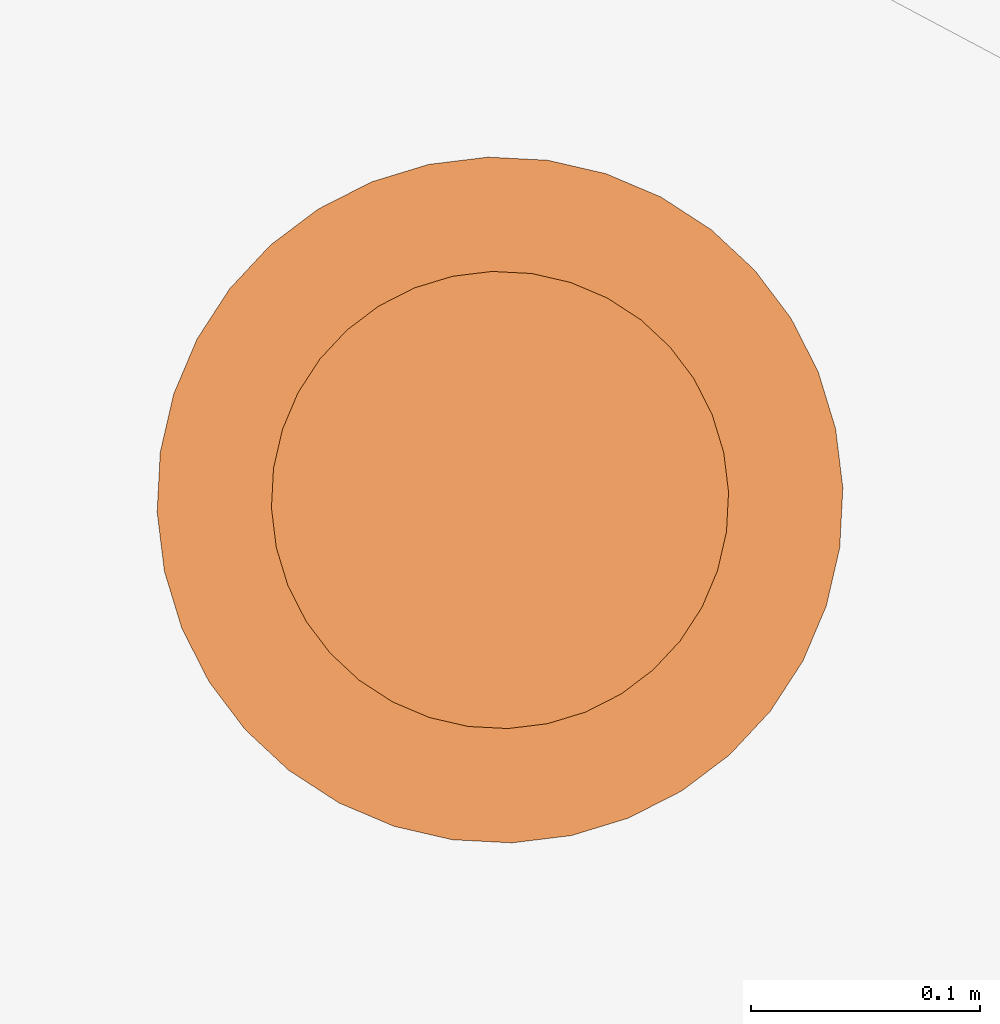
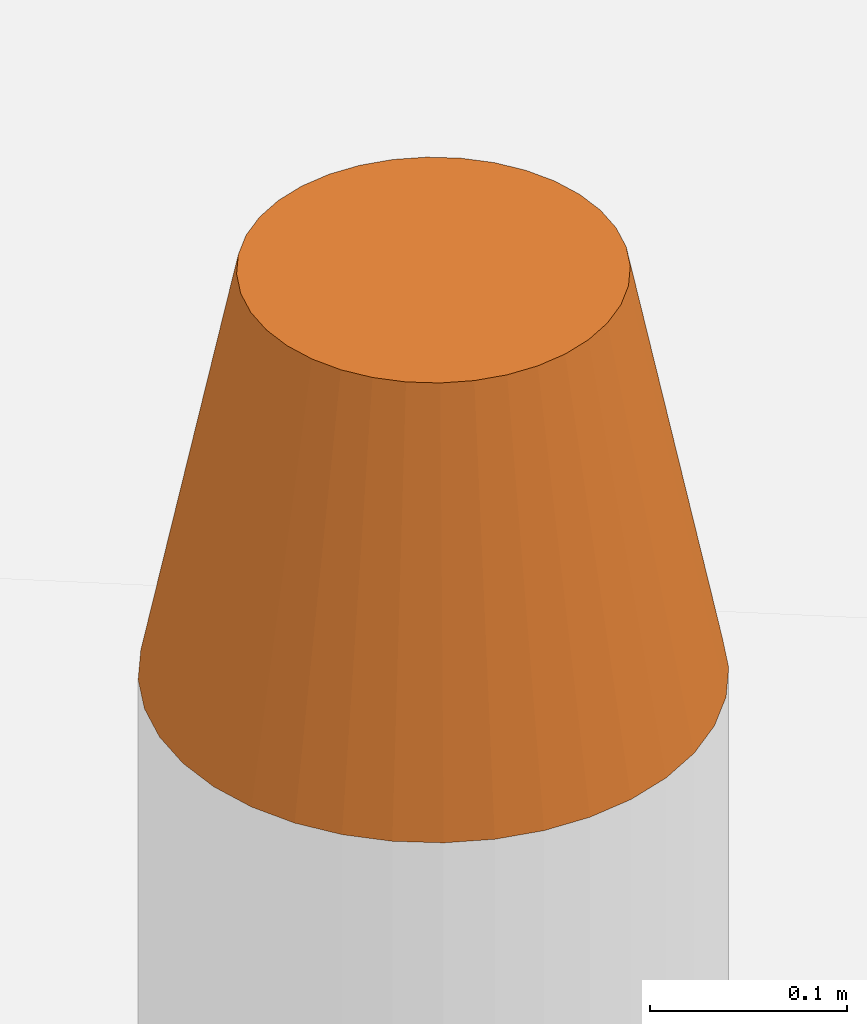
# One storey, part 4 of 4: 1 proxy.
"""IFC2X3 building model written with IfcOpenShell, lengths in metres."""

from ifc_helpers import new_model, entity, si_unit, converted_unit, derived_unit, money_unit, direction, frame, origin_with_axes, place, context, subcontext, project, spatial, faceted_brep, type_object, element, save


model = new_model("IFC2X3")

# Units and contexts
model_context = context("Model", 3, precision=1e-05, world=origin_with_axes(), true_north=direction((0.0, 1.0)))
body_context = subcontext(model_context, "Body", "Model", "MODEL_VIEW")
ifc_project = project(units=[si_unit("LENGTHUNIT", "METRE"), si_unit("AREAUNIT", "SQUARE_METRE"), si_unit("VOLUMEUNIT", "CUBIC_METRE"), converted_unit("PLANEANGLEUNIT", "DEGREE", entity("IfcPlaneAngleMeasure", 0.0174532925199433), si_unit("PLANEANGLEUNIT", "RADIAN"), dimensions=[0, 0, 0, 0, 0, 0, 0]), money_unit("CHF"), converted_unit("TIMEUNIT", "Year", entity("IfcTimeMeasure", 31557600.0), si_unit("TIMEUNIT", "SECOND"), dimensions=[0, 0, 1, 0, 0, 0, 0]), si_unit("MASSUNIT", "GRAM", prefix="KILO"), si_unit("THERMODYNAMICTEMPERATUREUNIT", "DEGREE_CELSIUS"), si_unit("LUMINOUSINTENSITYUNIT", "LUMEN"), si_unit("ENERGYUNIT", "JOULE", prefix="MEGA"), derived_unit("THERMALCONDUCTANCEUNIT", [(si_unit("POWERUNIT", "WATT"), 1), (si_unit("LENGTHUNIT", "METRE"), -1), (si_unit("THERMODYNAMICTEMPERATUREUNIT", "KELVIN"), -1)]), derived_unit("SPECIFICHEATCAPACITYUNIT", [(si_unit("ENERGYUNIT", "JOULE"), 1), (si_unit("MASSUNIT", "GRAM", prefix="KILO"), -1), (si_unit("THERMODYNAMICTEMPERATUREUNIT", "KELVIN"), -1)]), derived_unit("MASSDENSITYUNIT", [(si_unit("MASSUNIT", "GRAM", prefix="KILO"), 1), (si_unit("VOLUMEUNIT", "CUBIC_METRE"), -1)])], contexts=[model_context])

# Site, building, storey
site_placement = place(None, frame((0.0, 0.0, 0.0), z_axis=(0.0, 0.0, 1.0), x_axis=(-0.4694715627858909, -0.8829475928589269, 0.0)))
site = spatial("IfcSite", under=ifc_project, at=site_placement, Name="Site", CompositionType="ELEMENT")
building_placement = place(site_placement, origin_with_axes())
building = spatial("IfcBuilding", under=site, at=building_placement, Name="Bâtiment", CompositionType="ELEMENT")
storey_placement = place(building_placement, frame((0.0, 0.0, 2.7), z_axis=(0.0, 0.0, 1.0), x_axis=(1.0, 0.0, 0.0)))
storey = spatial("IfcBuildingStorey", under=building, at=storey_placement, Name="toiture", CompositionType="ELEMENT", Elevation=2.7)

# Proxy
building_element_proxy_type = type_object("IfcBuildingElementProxyType", Name="Cône 27", PredefinedType="NOTDEFINED")
proxy_placement = place(storey_placement, frame((134.302970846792, -836.3858584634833, 2.13934777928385), z_axis=(0.0, 0.0, 1.0), x_axis=(0.0, -1.0, 0.0)))
element("IfcBuildingElementProxy", 1, at=proxy_placement, inside=storey, type_object=building_element_proxy_type, Name="Obj.-482", context=body_context, shape_type="Brep", body=[
    faceted_brep([(-0.1477211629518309, -0.02604722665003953, 0.0), (-0.09848077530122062, -0.01736481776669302, 0.25), (-0.09999999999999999, 0.0, 0.25), (-0.15, 0.0, 0.0), (-0.140953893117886, -0.05130302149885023, 0.0), (-0.09396926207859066, -0.03420201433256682, 0.25), (-0.0866025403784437, -0.04999999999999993, 0.25), (-0.07660444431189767, -0.06427876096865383, 0.25), (-0.0642787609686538, -0.07660444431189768, 0.25), (-0.04999999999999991, -0.08660254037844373, 0.25), (-0.0342020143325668, -0.09396926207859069, 0.25), (-0.01736481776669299, -0.09848077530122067, 0.25), (0.0, -0.09999999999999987, 0.25), (0.01736481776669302, -0.09848077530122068, 0.25), (0.03420201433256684, -0.09396926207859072, 0.25), (0.04999999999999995, -0.08660254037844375, 0.25), (0.06427876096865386, -0.07660444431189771, 0.25), (0.07660444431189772, -0.06427876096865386, 0.25), (0.08660254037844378, -0.04999999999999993, 0.25), (0.09396926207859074, -0.03420201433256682, 0.25), (0.09848077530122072, -0.017364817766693, 0.25), (0.09999999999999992, 0.0, 0.25), (0.09848077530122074, 0.01736481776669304, 0.25), (0.09396926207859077, 0.03420201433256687, 0.25), (0.0866025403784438, 0.04999999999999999, 0.25), (0.07660444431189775, 0.06427876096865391, 0.25), (0.06427876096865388, 0.07660444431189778, 0.25), (0.04999999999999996, 0.08660254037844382, 0.25), (0.03420201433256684, 0.0939692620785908, 0.25), (0.01736481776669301, 0.09848077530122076, 0.25), (0.0, 0.09999999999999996, 0.25), (-0.01736481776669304, 0.09848077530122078, 0.25), (-0.03420201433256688, 0.09396926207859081, 0.25), (-0.05, 0.08660254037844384, 0.25), (-0.06427876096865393, 0.07660444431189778, 0.25), (-0.07660444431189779, 0.06427876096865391, 0.25), (-0.08660254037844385, 0.04999999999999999, 0.25), (-0.09396926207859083, 0.03420201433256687, 0.25), (-0.09848077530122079, 0.01736481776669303, 0.25), (-0.1477211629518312, 0.02604722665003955, 0.0), (-0.1409538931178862, 0.0513030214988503, 0.0), (-0.1299038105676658, 0.07499999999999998, 0.0), (-0.1149066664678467, 0.09641814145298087, 0.0), (-0.09641814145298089, 0.1149066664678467, 0.0), (-0.075, 0.1299038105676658, 0.0), (-0.05130302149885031, 0.1409538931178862, 0.0), (-0.02604722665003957, 0.1477211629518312, 0.0), (0.0, 0.1499999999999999, 0.0), (0.02604722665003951, 0.1477211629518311, 0.0), (0.05130302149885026, 0.1409538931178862, 0.0), (0.07499999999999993, 0.1299038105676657, 0.0), (0.09641814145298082, 0.1149066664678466, 0.0), (0.1149066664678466, 0.09641814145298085, 0.0), (0.1299038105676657, 0.07499999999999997, 0.0), (0.1409538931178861, 0.0513030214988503, 0.0), (0.1477211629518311, 0.02604722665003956, 0.0), (0.1499999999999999, 0.0, 0.0), (0.1477211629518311, -0.02604722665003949, 0.0), (0.1409538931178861, -0.05130302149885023, 0.0), (0.1299038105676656, -0.0749999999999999, 0.0), (0.1149066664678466, -0.09641814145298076, 0.0), (0.09641814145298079, -0.1149066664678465, 0.0), (0.07499999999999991, -0.1299038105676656, 0.0), (0.05130302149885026, -0.1409538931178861, 0.0), (0.02604722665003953, -0.147721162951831, 0.0), (0.0, -0.1499999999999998, 0.0), (-0.02604722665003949, -0.147721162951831, 0.0), (-0.05130302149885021, -0.140953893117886, 0.0), (-0.07499999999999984, -0.1299038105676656, 0.0), (-0.09641814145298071, -0.1149066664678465, 0.0), (-0.1149066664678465, -0.09641814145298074, 0.0), (-0.1299038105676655, -0.07499999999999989, 0.0)], [[[0, 1, 2, 3]], [[4, 5, 1, 0]], [[1, 5, 6, 7, 8, 9, 10, 11, 12, 13, 14, 15, 16, 17, 18, 19, 20, 21, 22, 23, 24, 25, 26, 27, 28, 29, 30, 31, 32, 33, 34, 35, 36, 37, 38, 2]], [[3, 2, 38, 39]], [[0, 3, 39, 40, 41, 42, 43, 44, 45, 46, 47, 48, 49, 50, 51, 52, 53, 54, 55, 56, 57, 58, 59, 60, 61, 62, 63, 64, 65, 66, 67, 68, 69, 70, 71, 4]], [[71, 6, 5, 4]], [[70, 7, 6, 71]], [[69, 8, 7, 70]], [[68, 9, 8, 69]], [[67, 10, 9, 68]], [[66, 11, 10, 67]], [[65, 12, 11, 66]], [[64, 13, 12, 65]], [[63, 14, 13, 64]], [[62, 15, 14, 63]], [[61, 16, 15, 62]], [[60, 17, 16, 61]], [[59, 18, 17, 60]], [[58, 19, 18, 59]], [[57, 20, 19, 58]], [[56, 21, 20, 57]], [[55, 22, 21, 56]], [[54, 23, 22, 55]], [[53, 24, 23, 54]], [[52, 25, 24, 53]], [[51, 26, 25, 52]], [[50, 27, 26, 51]], [[49, 28, 27, 50]], [[48, 29, 28, 49]], [[47, 30, 29, 48]], [[46, 31, 30, 47]], [[45, 32, 31, 46]], [[44, 33, 32, 45]], [[43, 34, 33, 44]], [[42, 35, 34, 43]], [[41, 36, 35, 42]], [[40, 37, 36, 41]], [[39, 38, 37, 40]]]),
])

save(model, "model.ifc")
